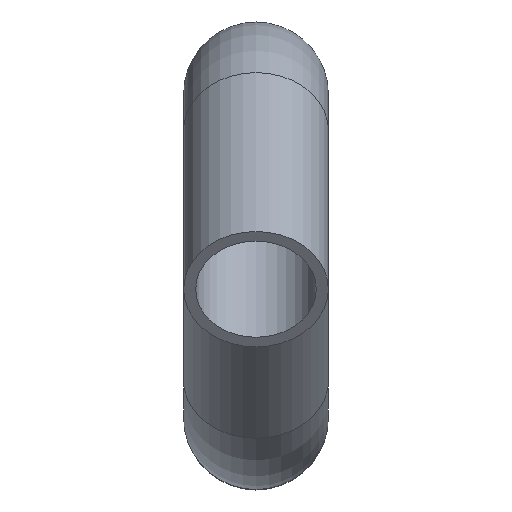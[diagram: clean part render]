
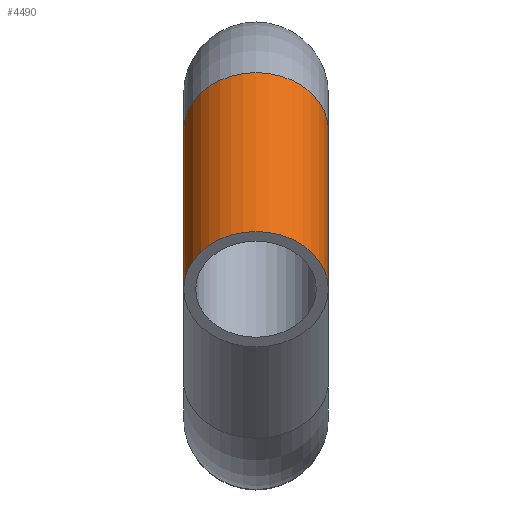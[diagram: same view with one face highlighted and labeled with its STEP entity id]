
A CAD part, top view. The second image highlights one B-rep face of the part: STEP entity #4490.
In plain terms, the highlighted cylindrical face has radius 9 mm (diameter 18 mm), a partial arc.
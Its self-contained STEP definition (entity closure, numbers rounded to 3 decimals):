
#2770=CARTESIAN_POINT('',(-2.894,89.41,118.32));
#2780=VERTEX_POINT('',#2770);
#2930=CARTESIAN_POINT('',(-20.894,89.41,118.32));
#2940=VERTEX_POINT('',#2930);
#2970=CARTESIAN_POINT('',(-11.894,89.41,118.32));
#2980=DIRECTION('',(0.,-0.605,0.796));
#2990=DIRECTION('',(1.,0.,0.));
#3000=AXIS2_PLACEMENT_3D('',#2970,#2980,#2990);
#3010=CIRCLE('',#3000,9.);
#3410=CARTESIAN_POINT('',(-11.894,89.41,118.32));
#3420=DIRECTION('',(0.,-0.605,0.796));
#3430=DIRECTION('',(1.,0.,0.));
#3440=AXIS2_PLACEMENT_3D('',#3410,#3420,#3430);
#3450=CYLINDRICAL_SURFACE('',#3440,9.);
#3460=CARTESIAN_POINT('',(-2.894,89.41,118.32));
#3470=DIRECTION('',(0.,-0.605,0.796));
#3480=VECTOR('',#3470,1.);
#3490=LINE('',#3460,#3480);
#3500=CARTESIAN_POINT('',(-2.894,69.612,144.345));
#3510=VERTEX_POINT('',#3500);
#3520=EDGE_CURVE('',#2780,#3510,#3490,.T.);
#3550=CARTESIAN_POINT('',(-20.894,89.41,118.32));
#3560=DIRECTION('',(0.,-0.605,0.796));
#3570=VECTOR('',#3560,1.);
#3580=LINE('',#3550,#3570);
#3590=CARTESIAN_POINT('',(-20.894,69.612,144.345));
#3600=VERTEX_POINT('',#3590);
#3610=EDGE_CURVE('',#2940,#3600,#3580,.T.);
#3630=CARTESIAN_POINT('',(-11.894,69.612,144.345));
#3640=DIRECTION('',(0.,-0.605,0.796));
#3650=DIRECTION('',(1.,0.,0.));
#3660=AXIS2_PLACEMENT_3D('',#3630,#3640,#3650);
#3670=CIRCLE('',#3660,9.);
#3780=EDGE_CURVE('',#3510,#3600,#3670,.T.);
#4420=EDGE_CURVE('',#2780,#2940,#3010,.T.);
#4430=ORIENTED_EDGE('',*,*,#4420,.T.);
#4440=ORIENTED_EDGE('',*,*,#3520,.F.);
#4450=ORIENTED_EDGE('',*,*,#3780,.F.);
#4460=ORIENTED_EDGE('',*,*,#3610,.T.);
#4470=EDGE_LOOP('',(#4460,#4450,#4440,#4430));
#4480=FACE_OUTER_BOUND('',#4470,.T.);
#4490=ADVANCED_FACE('',(#4480),#3450,.T.);
